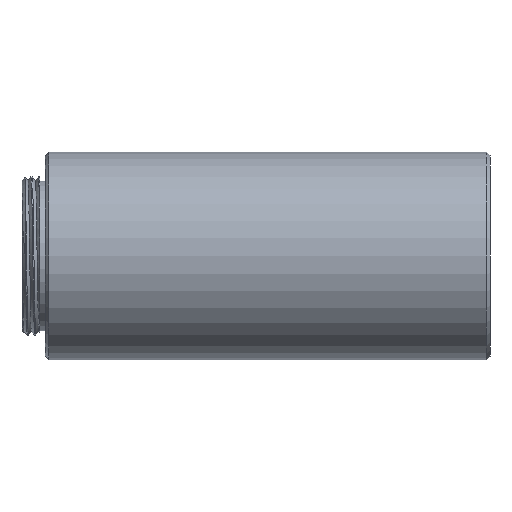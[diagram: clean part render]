
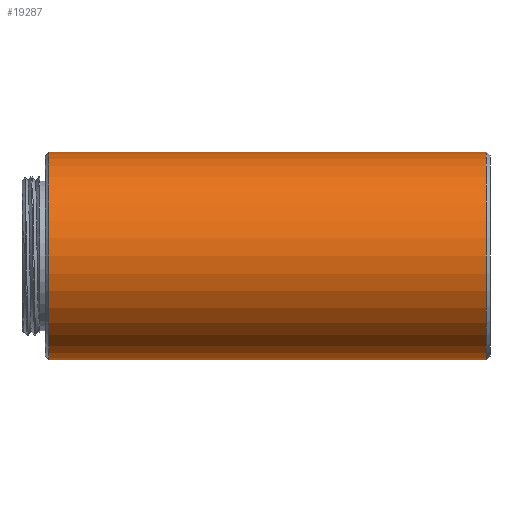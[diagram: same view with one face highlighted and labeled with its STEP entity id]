
A CAD part, front view. The second image highlights one B-rep face of the part: STEP entity #19287.
In plain terms, the highlighted cylindrical face has radius 8.89 mm (diameter 17.78 mm), a partial arc.
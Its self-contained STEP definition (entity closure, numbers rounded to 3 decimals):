
#8373=DIRECTION('',(1.,0.,0.));
#8374=VECTOR('',#8373,37.5);
#8375=CARTESIAN_POINT('',(0.3,0.,
-8.89));
#8376=LINE('',#8375,#8374);
#8377=CARTESIAN_POINT('',(37.8,0.,0.));
#8378=DIRECTION('',(1.,0.,0.));
#8379=DIRECTION('',(0.,0.,1.));
#8380=AXIS2_PLACEMENT_3D('',#8377,#8378,#8379);
#8382=CARTESIAN_POINT('',(0.3,0.,0.));
#8383=DIRECTION('',(-1.,0.,0.));
#8384=DIRECTION('',(0.,0.,-1.));
#8385=AXIS2_PLACEMENT_3D('',#8382,#8383,#8384);
#8387=DIRECTION('',(1.,0.,0.));
#8388=VECTOR('',#8387,37.5);
#8389=CARTESIAN_POINT('',(0.3,0.,
8.89));
#8390=LINE('',#8389,#8388);
#8618=CARTESIAN_POINT('',(0.3,0.,-8.89));
#8619=CARTESIAN_POINT('',(0.3,0.,8.89));
#8620=VERTEX_POINT('',#8618);
#8621=VERTEX_POINT('',#8619);
#8626=CARTESIAN_POINT('',(37.8,0.,8.89));
#8627=CARTESIAN_POINT('',(37.8,0.,-8.89));
#8628=VERTEX_POINT('',#8626);
#8629=VERTEX_POINT('',#8627);
#19275=CARTESIAN_POINT('',(0.,0.,0.));
#19276=DIRECTION('',(1.,0.,0.));
#19277=DIRECTION('',(0.,0.,-1.));
#19278=AXIS2_PLACEMENT_3D('',#19275,#19276,#19277);
#19279=CYLINDRICAL_SURFACE('',#19278,8.89);
#19280=ORIENTED_EDGE('',*,*,#19240,.T.);
#19281=ORIENTED_EDGE('',*,*,#19270,.F.);
#19283=ORIENTED_EDGE('',*,*,#19282,.T.);
#19284=ORIENTED_EDGE('',*,*,#19266,.T.);
#19285=EDGE_LOOP('',(#19280,#19281,#19283,#19284));
#19286=FACE_OUTER_BOUND('',#19285,.F.);
#19287=ADVANCED_FACE('',(#19286),#19279,.T.);
#8381=CIRCLE('',#8380,8.89);
#8386=CIRCLE('',#8385,8.89);
#19240=EDGE_CURVE('',#8628,#8629,#8381,.T.);
#19266=EDGE_CURVE('',#8621,#8628,#8390,.T.);
#19270=EDGE_CURVE('',#8620,#8629,#8376,.T.);
#19282=EDGE_CURVE('',#8620,#8621,#8386,.T.);
